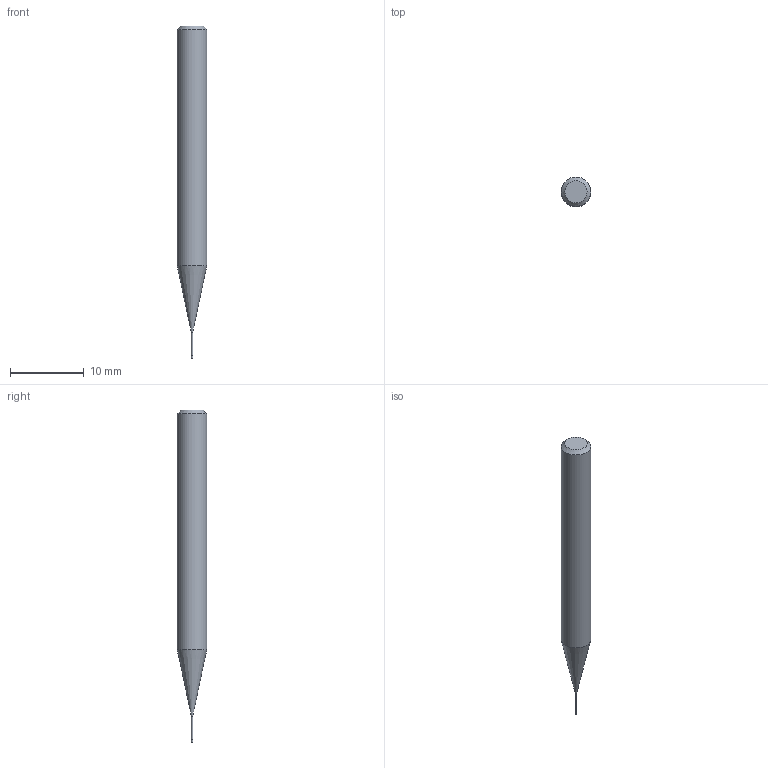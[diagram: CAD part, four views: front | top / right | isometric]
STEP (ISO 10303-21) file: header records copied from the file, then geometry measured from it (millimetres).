
FILE_DESCRIPTION((''),'2;1');
FILE_NAME('C:\Users\nsx150\AppData\Local\Temp\Mastercam 2021\17T8Q8S9EB\TEMP.step','2021-04-21T14:23:35',(''),(''),'STEP Write','Mastercam 2021 ... CNC Software, Inc.','');
FILE_SCHEMA(('AUTOMOTIVE_DESIGN'));
Length unit declared in the file: millimetre
Products named in the file (1): None
Bounding box: 4 x 4 x 45 mm (x, y, z)
Volume: 446.6 mm3; surface area: 479.6 mm2
Topology: 2 solids, 2 shells, 9 faces, 12 edges, 7 vertices
Faces by surface type: plane 4, cylinder 3, cone 2
Full cylindrical faces by diameter (mm): 0.18 x1, 0.2 x1, 4 x1
Entity records: 211 total; most frequent: DIRECTION 36, CARTESIAN_POINT 25, AXIS2_PLACEMENT_3D 18, ORIENTED_EDGE 14, EDGE_LOOP 14, STYLED_ITEM 12, ADVANCED_FACE 9, FACE_BOUND 8
